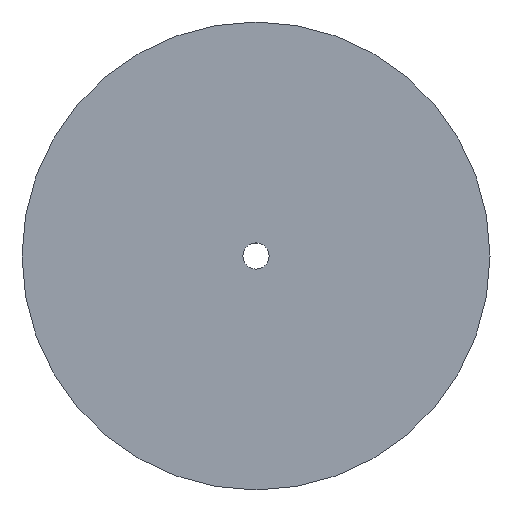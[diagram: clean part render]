
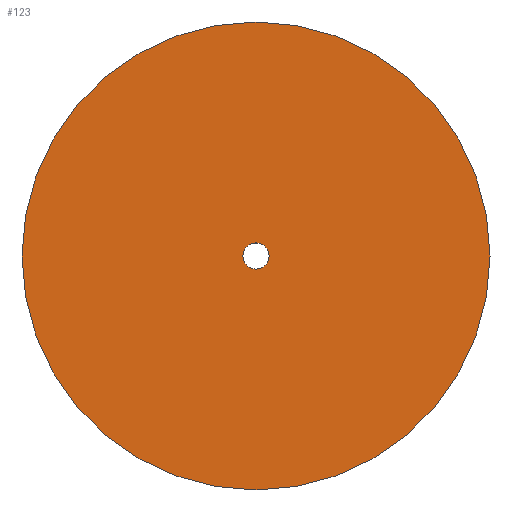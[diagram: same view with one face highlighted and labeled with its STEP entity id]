
A CAD part, top view. The second image highlights one B-rep face of the part: STEP entity #123.
In plain terms, the highlighted planar face has unit normal (0, 0, 1).
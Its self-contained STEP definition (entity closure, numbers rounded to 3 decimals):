
#62=CARTESIAN_POINT('Vertex',(-2.852,1.558,0.)) ;
#76=CARTESIAN_POINT('Vertex',(2.852,-1.558,0.)) ;
#79=CARTESIAN_POINT('Axis2P3D Location',(0.,0.,0.)) ;
#91=CARTESIAN_POINT('Axis2P3D Location',(0.,0.,0.)) ;
#96=CARTESIAN_POINT('Axis2P3D Location',(0.,0.,0.)) ;
#100=CARTESIAN_POINT('Vertex',(58.,0.,0.)) ;
#102=CARTESIAN_POINT('Vertex',(-58.,0.,0.)) ;
#105=CARTESIAN_POINT('Axis2P3D Location',(0.,0.,0.)) ;
#114=CARTESIAN_POINT('Axis2P3D Location',(0.,0.,0.)) ;
#80=DIRECTION('Axis2P3D Direction',(0.,-0.,-1.)) ;
#92=DIRECTION('Axis2P3D Direction',(0.,0.,1.)) ;
#93=DIRECTION('Axis2P3D XDirection',(1.,0.,0.)) ;
#97=DIRECTION('Axis2P3D Direction',(0.,0.,1.)) ;
#106=DIRECTION('Axis2P3D Direction',(0.,0.,1.)) ;
#115=DIRECTION('Axis2P3D Direction',(0.,0.,1.)) ;
#81=AXIS2_PLACEMENT_3D('Circle Axis2P3D',#79,#80,$) ;
#94=AXIS2_PLACEMENT_3D('Plane Axis2P3D',#91,#92,#93) ;
#98=AXIS2_PLACEMENT_3D('Circle Axis2P3D',#96,#97,$) ;
#107=AXIS2_PLACEMENT_3D('Circle Axis2P3D',#105,#106,$) ;
#116=AXIS2_PLACEMENT_3D('Circle Axis2P3D',#114,#115,$) ;
#111=ORIENTED_EDGE('',*,*,#104,.F.) ;
#112=ORIENTED_EDGE('',*,*,#109,.F.) ;
#120=ORIENTED_EDGE('',*,*,#118,.F.) ;
#121=ORIENTED_EDGE('',*,*,#83,.F.) ;
#122=FACE_BOUND('',#119,.T.) ;
#123=ADVANCED_FACE('PartBody',(#113,#122),#95,.T.) ;
#82=CIRCLE('generated circle',#81,3.25) ;
#99=CIRCLE('generated circle',#98,58.) ;
#108=CIRCLE('generated circle',#107,58.) ;
#117=CIRCLE('generated circle',#116,3.25) ;
#83=EDGE_CURVE('',#77,#63,#82,.F.) ;
#104=EDGE_CURVE('',#101,#103,#99,.F.) ;
#109=EDGE_CURVE('',#103,#101,#108,.F.) ;
#118=EDGE_CURVE('',#63,#77,#117,.T.) ;
#110=EDGE_LOOP('',(#111,#112)) ;
#119=EDGE_LOOP('',(#120,#121)) ;
#113=FACE_OUTER_BOUND('',#110,.T.) ;
#95=PLANE('',#94) ;
#63=VERTEX_POINT('',#62) ;
#77=VERTEX_POINT('',#76) ;
#101=VERTEX_POINT('',#100) ;
#103=VERTEX_POINT('',#102) ;
